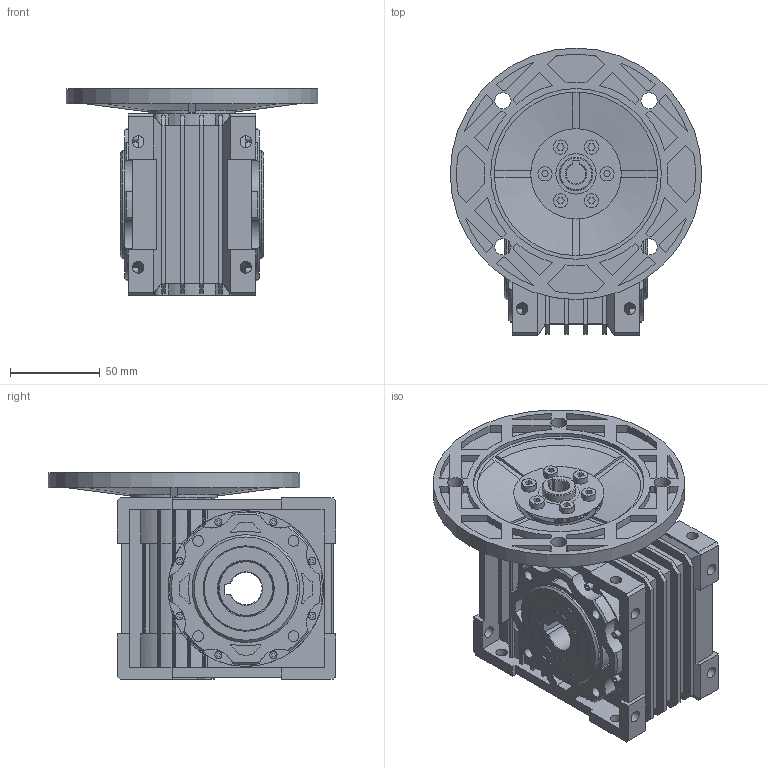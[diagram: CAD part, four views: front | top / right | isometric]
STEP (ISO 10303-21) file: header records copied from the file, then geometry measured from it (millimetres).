
FILE_DESCRIPTION(/* description */ (''),/* implementation_level */ '2;1');
FILE_NAME(/* name */ 'Z:\동력 3D 파일\PCMRV040_63B5_3D.stp',/* time_stamp */ '2021-12-01T16:37:18+09:00',/* author */ ('jaebok'),/* organization */ (''),/* preprocessor_version */ 'ST-DEVELOPER v18.1',/* originating_system */ 'Autodesk Inventor 2022',/* authorisation */ '');
FILE_SCHEMA (('AUTOMOTIVE_DESIGN { 1 0 10303 214 3 1 1 }'));
Length unit declared in the file: millimetre
Products named in the file (1): 부품40
Bounding box: 140 x 160 x 115 mm (x, y, z)
Volume: 809846.1 mm3; surface area: 138765.9 mm2
Topology: 1 solids, 2 shells, 897 faces, 2343 edges, 1546 vertices
Faces by surface type: plane 561, cylinder 303, cone 33
Full cylindrical faces by diameter (mm): 2.933 x8, 4 x16, 6 x8, 6.5 x16, 7.903 x6, 9 x4, 18.7 x1, 22.44 x1, 30.6 x2, 38.1 x2, 39.1 x2, 47.5 x2, 48.5 x1, 60 x2, 95 x1, 140 x1
Entity records: 28923 total; most frequent: CARTESIAN_POINT 5322, DIRECTION 4704, ORIENTED_EDGE 4686, EDGE_CURVE 2343, AXIS2_PLACEMENT_3D 1574, LINE 1556, VECTOR 1556, VERTEX_POINT 1546
